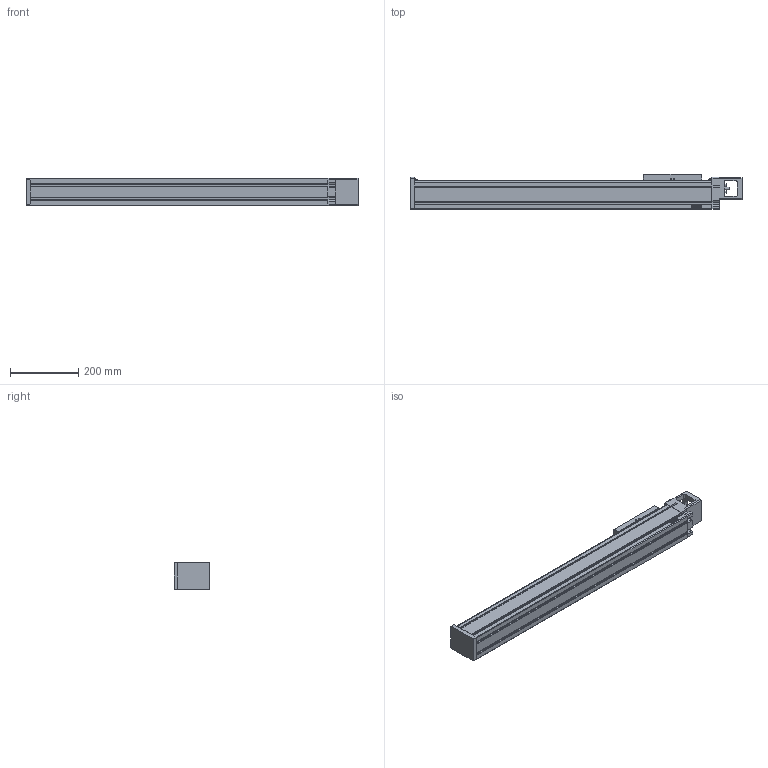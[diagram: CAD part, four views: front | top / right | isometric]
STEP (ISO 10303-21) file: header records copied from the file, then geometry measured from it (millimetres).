
FILE_DESCRIPTION(/* description */ (''),/* implementation_level */ '2;1');
FILE_NAME(/* name */ 'D:\混合母檔20191031\混和母檔\混和母檔\bin\Debug\Download\3D\KU80-20C-650AF0\KU80-20C-650AF0.stp',/* time_stamp */ '2019-11-04T17:25:33+08:00',/* author */ ('user'),/* organization */ (''),/* preprocessor_version */ 'ST-DEVELOPER v16.13',/* originating_system */ 'Autodesk Inventor 2018',/* authorisation */ '');
FILE_SCHEMA (('AUTOMOTIVE_DESIGN { 1 0 10303 214 3 1 1 }'));
Length unit declared in the file: millimetre
Products named in the file (3): KU80-20C-650AF0; KU80-F0-BP; KU80-SL
Assembly tree (2 placements, depth 2):
  KU80-20C-650AF0
    KU80-F0-BP
    KU80-SL
Bounding box: 970 x 103 x 80 mm (x, y, z)
Volume: 6106719.9 mm3; surface area: 527367.4 mm2
Topology: 2 solids, 10 shells, 862 faces, 2315 edges, 1508 vertices
Faces by surface type: plane 509, bspline 136, cylinder 104, cone 81, torus 28, sphere 4
Full cylindrical faces by diameter (mm): 2.459 x4, 2.729 x4, 3 x4, 3.242 x4, 3.5 x4, 4.134 x16, 5 x4, 5.5 x8, 5.6 x2, 8 x1, 8.5 x4, 12 x1, 46.5 x1
Entity records: 27990 total; most frequent: CARTESIAN_POINT 7413, ORIENTED_EDGE 4362, DIRECTION 3790, EDGE_CURVE 2181, VERTEX_POINT 1469, LINE 1298, VECTOR 1298, AXIS2_PLACEMENT_3D 1246
